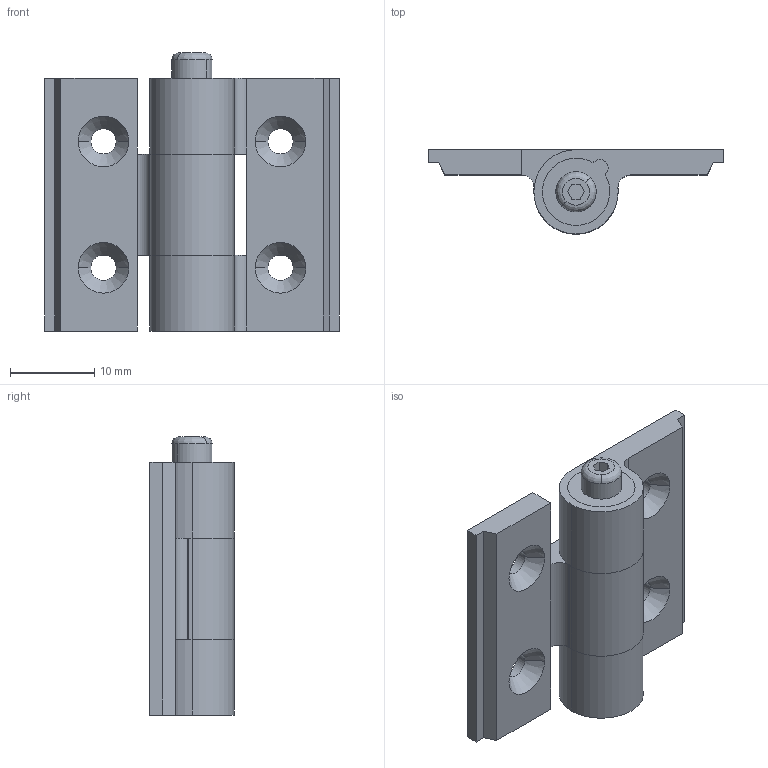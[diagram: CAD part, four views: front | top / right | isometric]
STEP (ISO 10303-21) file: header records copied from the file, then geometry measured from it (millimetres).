
FILE_DESCRIPTION((''),'2;1');
FILE_NAME('6871.02.stp','2011-08-12T14:02:53',(''),(''),'Mechanical Desktop 2006','Mechanical Desktop 2006',', , ');
FILE_SCHEMA(('CONFIG_CONTROL_DESIGN'));
Length unit declared in the file: millimetre
Products named in the file (4): 6871.01; TEIL1; TEIL2; TEIL3
Assembly tree (3 placements, depth 2):
  6871.01
    TEIL1
    TEIL2
    TEIL3
Bounding box: 35 x 10 x 33 mm (x, y, z)
Volume: 4396.7 mm3; surface area: 4641.5 mm2
Topology: 3 solids, 3 shells, 98 faces, 263 edges, 161 vertices
Faces by surface type: cylinder 45, plane 31, sphere 12, cone 8, bspline 2
Entity records: 3431 total; most frequent: CARTESIAN_POINT 804, DIRECTION 560, ORIENTED_EDGE 502, EDGE_CURVE 251, AXIS2_PLACEMENT_3D 217, VERTEX_POINT 161, VECTOR 126, LINE 126
